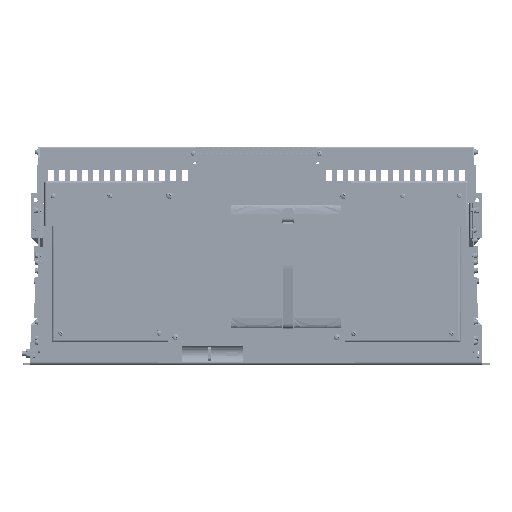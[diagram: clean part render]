
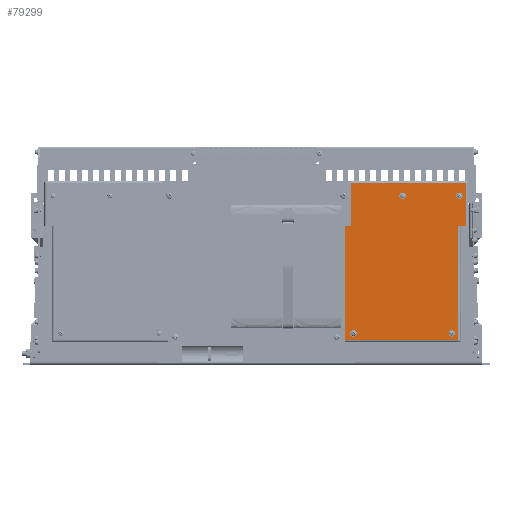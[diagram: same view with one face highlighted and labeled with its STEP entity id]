
A CAD part, top view. The second image highlights one B-rep face of the part: STEP entity #79299.
In plain terms, the highlighted planar face has unit normal (0, 0, 1) as drawn and (0, 0, -1) by its records, which use the part's own axes.
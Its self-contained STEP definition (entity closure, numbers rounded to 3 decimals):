
#216 = CARTESIAN_POINT ( 'NONE',  ( 17.5, 17.5, 0. ) ) ;
#288 = ORIENTED_EDGE ( 'NONE', *, *, #68076, .F. ) ;
#754 = CARTESIAN_POINT ( 'NONE',  ( 24., 17.5, 0. ) ) ;
#1741 = DIRECTION ( 'NONE',  ( 1., 0., 0. ) ) ;
#2226 = EDGE_CURVE ( 'NONE', #35780, #76823, #26098, .T. ) ;
#3442 = DIRECTION ( 'NONE',  ( -1., 0., 0. ) ) ;
#4064 = CIRCLE ( 'NONE', #64741, 6.5 ) ;
#4161 = PLANE ( 'NONE',  #19539 ) ;
#4310 = ORIENTED_EDGE ( 'NONE', *, *, #43387, .F. ) ;
#4594 = CARTESIAN_POINT ( 'NONE',  ( 0., 0., 0. ) ) ;
#5142 = CARTESIAN_POINT ( 'NONE',  ( -10., 230., 0. ) ) ;
#5155 = ORIENTED_EDGE ( 'NONE', *, *, #74692, .T. ) ;
#6658 = AXIS2_PLACEMENT_3D ( 'NONE', #46949, #8030, #75629 ) ;
#7227 = VERTEX_POINT ( 'NONE', #12002 ) ;
#7369 = CARTESIAN_POINT ( 'NONE',  ( 5., 0., 0. ) ) ;
#7506 = CARTESIAN_POINT ( 'NONE',  ( 115., 290., 0. ) ) ;
#8030 = DIRECTION ( 'NONE',  ( 0., 0., 1. ) ) ;
#8116 = DIRECTION ( 'NONE',  ( 1., 0., 0. ) ) ;
#8871 = CARTESIAN_POINT ( 'NONE',  ( 230., 230., 0. ) ) ;
#9045 = DIRECTION ( 'NONE',  ( 0., 0., 1. ) ) ;
#9714 = DIRECTION ( 'NONE',  ( -1., 0., 0. ) ) ;
#9854 = ORIENTED_EDGE ( 'NONE', *, *, #58515, .T. ) ;
#11219 = EDGE_LOOP ( 'NONE', ( #74769, #15827 ) ) ;
#11805 = LINE ( 'NONE', #5142, #44363 ) ;
#11972 = VERTEX_POINT ( 'NONE', #57855 ) ;
#12002 = CARTESIAN_POINT ( 'NONE',  ( 5., 5., 0. ) ) ;
#12289 = VERTEX_POINT ( 'NONE', #42690 ) ;
#12870 = CARTESIAN_POINT ( 'NONE',  ( 121.5, 290., 0. ) ) ;
#14355 = DIRECTION ( 'NONE',  ( 0., 0., 1. ) ) ;
#14645 = CARTESIAN_POINT ( 'NONE',  ( 2.5, 290., 0. ) ) ;
#15130 = VERTEX_POINT ( 'NONE', #35941 ) ;
#15344 = ORIENTED_EDGE ( 'NONE', *, *, #63063, .T. ) ;
#15563 = CARTESIAN_POINT ( 'NONE',  ( -10., 315., 0. ) ) ;
#15827 = ORIENTED_EDGE ( 'NONE', *, *, #2226, .T. ) ;
#17878 = VERTEX_POINT ( 'NONE', #82632 ) ;
#18070 = EDGE_CURVE ( 'NONE', #61001, #59089, #77266, .T. ) ;
#18120 = DIRECTION ( 'NONE',  ( 0., 0., 1. ) ) ;
#18650 = EDGE_LOOP ( 'NONE', ( #45354, #74558, #25468, #73236, #85528, #21647, #4310, #288 ) ) ;
#18944 = CARTESIAN_POINT ( 'NONE',  ( 217.5, 320., 0. ) ) ;
#19539 = AXIS2_PLACEMENT_3D ( 'NONE', #4594, #31538, #85522 ) ;
#19967 = EDGE_LOOP ( 'NONE', ( #52072, #76052 ) ) ;
#20257 = DIRECTION ( 'NONE',  ( 0., 1., 0. ) ) ;
#20468 = AXIS2_PLACEMENT_3D ( 'NONE', #7506, #60974, #1741 ) ;
#21647 = ORIENTED_EDGE ( 'NONE', *, *, #18070, .F. ) ;
#23312 = DIRECTION ( 'NONE',  ( 1., 0., 0. ) ) ;
#24352 = VERTEX_POINT ( 'NONE', #58935 ) ;
#24530 = VERTEX_POINT ( 'NONE', #15563 ) ;
#24608 = VECTOR ( 'NONE', #3442, 1000. ) ;
#25468 = ORIENTED_EDGE ( 'NONE', *, *, #41055, .F. ) ;
#26077 = DIRECTION ( 'NONE',  ( 0., 0., 1. ) ) ;
#26098 = CIRCLE ( 'NONE', #20468, 6.5 ) ;
#26704 = CIRCLE ( 'NONE', #62008, 6.5 ) ;
#28889 = CARTESIAN_POINT ( 'NONE',  ( 206., 17.5, 0. ) ) ;
#28939 = CIRCLE ( 'NONE', #72651, 6.5 ) ;
#29855 = CIRCLE ( 'NONE', #36902, 6.5 ) ;
#30367 = CARTESIAN_POINT ( 'NONE',  ( 217.5, 230., 0. ) ) ;
#31538 = DIRECTION ( 'NONE',  ( 0., 0., 1. ) ) ;
#32241 = CARTESIAN_POINT ( 'NONE',  ( 212.5, 17.5, 0. ) ) ;
#32275 = VECTOR ( 'NONE', #23312, 1000. ) ;
#34177 = DIRECTION ( 'NONE',  ( 0., 0., 1. ) ) ;
#34889 = LINE ( 'NONE', #82284, #57742 ) ;
#35780 = VERTEX_POINT ( 'NONE', #43968 ) ;
#35941 = CARTESIAN_POINT ( 'NONE',  ( 219., 17.5, 0. ) ) ;
#36902 = AXIS2_PLACEMENT_3D ( 'NONE', #69563, #9045, #69983 ) ;
#37260 = FACE_BOUND ( 'NONE', #55042, .T. ) ;
#37347 = VERTEX_POINT ( 'NONE', #754 ) ;
#38917 = DIRECTION ( 'NONE',  ( 1., 0., 0. ) ) ;
#39152 = EDGE_CURVE ( 'NONE', #76823, #35780, #4064, .T. ) ;
#41055 = EDGE_CURVE ( 'NONE', #24530, #12289, #11805, .T. ) ;
#41847 = VECTOR ( 'NONE', #56404, 1000. ) ;
#42116 = CARTESIAN_POINT ( 'NONE',  ( 212.5, 17.5, 0. ) ) ;
#42690 = CARTESIAN_POINT ( 'NONE',  ( -10., 230., 0. ) ) ;
#43387 = EDGE_CURVE ( 'NONE', #48549, #61001, #77132, .T. ) ;
#43929 = CARTESIAN_POINT ( 'NONE',  ( 9., 290., 0. ) ) ;
#43968 = CARTESIAN_POINT ( 'NONE',  ( 108.5, 290., 0. ) ) ;
#44363 = VECTOR ( 'NONE', #58217, 1000. ) ;
#44743 = CIRCLE ( 'NONE', #6658, 6.5 ) ;
#45354 = ORIENTED_EDGE ( 'NONE', *, *, #51207, .F. ) ;
#46314 = VERTEX_POINT ( 'NONE', #51681 ) ;
#46949 = CARTESIAN_POINT ( 'NONE',  ( 2.5, 290., 0. ) ) ;
#48549 = VERTEX_POINT ( 'NONE', #53402 ) ;
#49479 = AXIS2_PLACEMENT_3D ( 'NONE', #32241, #18120, #52602 ) ;
#49511 = DIRECTION ( 'NONE',  ( 1., 0., 0. ) ) ;
#51051 = CARTESIAN_POINT ( 'NONE',  ( 230., 230., 0. ) ) ;
#51207 = EDGE_CURVE ( 'NONE', #24352, #7227, #75401, .T. ) ;
#51681 = CARTESIAN_POINT ( 'NONE',  ( -4., 290., 0. ) ) ;
#52030 = VECTOR ( 'NONE', #20257, 1000. ) ;
#52072 = ORIENTED_EDGE ( 'NONE', *, *, #87033, .T. ) ;
#52392 = AXIS2_PLACEMENT_3D ( 'NONE', #216, #34177, #75304 ) ;
#52602 = DIRECTION ( 'NONE',  ( 1., 0., 0. ) ) ;
#53402 = CARTESIAN_POINT ( 'NONE',  ( 230., 5., 0. ) ) ;
#54303 = LINE ( 'NONE', #18944, #52030 ) ;
#54351 = DIRECTION ( 'NONE',  ( 1., 0., 0. ) ) ;
#55042 = EDGE_LOOP ( 'NONE', ( #57093, #9854 ) ) ;
#55193 = VERTEX_POINT ( 'NONE', #28889 ) ;
#56331 = VECTOR ( 'NONE', #38917, 1000. ) ;
#56404 = DIRECTION ( 'NONE',  ( 0., 1., 0. ) ) ;
#57093 = ORIENTED_EDGE ( 'NONE', *, *, #84000, .T. ) ;
#57657 = FACE_BOUND ( 'NONE', #19967, .T. ) ;
#57704 = EDGE_CURVE ( 'NONE', #17878, #37347, #29855, .T. ) ;
#57742 = VECTOR ( 'NONE', #9714, 1000. ) ;
#57855 = CARTESIAN_POINT ( 'NONE',  ( 217.5, 315., 0. ) ) ;
#58217 = DIRECTION ( 'NONE',  ( 0., -1., 0. ) ) ;
#58457 = EDGE_CURVE ( 'NONE', #11972, #24530, #34889, .T. ) ;
#58515 = EDGE_CURVE ( 'NONE', #46314, #80267, #26704, .T. ) ;
#58865 = CARTESIAN_POINT ( 'NONE',  ( 0., 230., 0. ) ) ;
#58935 = CARTESIAN_POINT ( 'NONE',  ( 5., 230., 0. ) ) ;
#59089 = VERTEX_POINT ( 'NONE', #85106 ) ;
#60974 = DIRECTION ( 'NONE',  ( 0., 0., 1. ) ) ;
#61001 = VERTEX_POINT ( 'NONE', #8871 ) ;
#62008 = AXIS2_PLACEMENT_3D ( 'NONE', #14645, #82697, #49511 ) ;
#63063 = EDGE_CURVE ( 'NONE', #55193, #15130, #69188, .T. ) ;
#63542 = CARTESIAN_POINT ( 'NONE',  ( 230., 5., 0. ) ) ;
#64741 = AXIS2_PLACEMENT_3D ( 'NONE', #72025, #26077, #54351 ) ;
#65584 = FACE_BOUND ( 'NONE', #86656, .T. ) ;
#67906 = DIRECTION ( 'NONE',  ( 0., -1., 0. ) ) ;
#68076 = EDGE_CURVE ( 'NONE', #7227, #48549, #77264, .T. ) ;
#69188 = CIRCLE ( 'NONE', #49479, 6.5 ) ;
#69563 = CARTESIAN_POINT ( 'NONE',  ( 17.5, 17.5, 0. ) ) ;
#69983 = DIRECTION ( 'NONE',  ( 1., 0., 0. ) ) ;
#70019 = EDGE_CURVE ( 'NONE', #59089, #11972, #54303, .T. ) ;
#70727 = EDGE_CURVE ( 'NONE', #12289, #24352, #72524, .T. ) ;
#72025 = CARTESIAN_POINT ( 'NONE',  ( 115., 290., 0. ) ) ;
#72524 = LINE ( 'NONE', #58865, #56331 ) ;
#72651 = AXIS2_PLACEMENT_3D ( 'NONE', #42116, #14355, #8116 ) ;
#73236 = ORIENTED_EDGE ( 'NONE', *, *, #58457, .F. ) ;
#74558 = ORIENTED_EDGE ( 'NONE', *, *, #70727, .F. ) ;
#74692 = EDGE_CURVE ( 'NONE', #15130, #55193, #28939, .T. ) ;
#74769 = ORIENTED_EDGE ( 'NONE', *, *, #39152, .T. ) ;
#75304 = DIRECTION ( 'NONE',  ( 1., 0., 0. ) ) ;
#75401 = LINE ( 'NONE', #7369, #84563 ) ;
#75629 = DIRECTION ( 'NONE',  ( 1., 0., 0. ) ) ;
#76052 = ORIENTED_EDGE ( 'NONE', *, *, #57704, .T. ) ;
#76823 = VERTEX_POINT ( 'NONE', #12870 ) ;
#77132 = LINE ( 'NONE', #51051, #41847 ) ;
#77264 = LINE ( 'NONE', #63542, #32275 ) ;
#77266 = LINE ( 'NONE', #30367, #24608 ) ;
#77558 = FACE_OUTER_BOUND ( 'NONE', #18650, .T. ) ;
#79299 = ADVANCED_FACE ( 'NONE', ( #85091, #57657, #65584, #37260, #77558 ), #4161, .F. ) ;
#80267 = VERTEX_POINT ( 'NONE', #43929 ) ;
#80522 = CIRCLE ( 'NONE', #52392, 6.5 ) ;
#82284 = CARTESIAN_POINT ( 'NONE',  ( -15., 315., 0. ) ) ;
#82632 = CARTESIAN_POINT ( 'NONE',  ( 11., 17.5, 0. ) ) ;
#82697 = DIRECTION ( 'NONE',  ( 0., 0., 1. ) ) ;
#84000 = EDGE_CURVE ( 'NONE', #80267, #46314, #44743, .T. ) ;
#84563 = VECTOR ( 'NONE', #67906, 1000. ) ;
#85091 = FACE_BOUND ( 'NONE', #11219, .T. ) ;
#85106 = CARTESIAN_POINT ( 'NONE',  ( 217.5, 230., 0. ) ) ;
#85522 = DIRECTION ( 'NONE',  ( -1., 0., 0. ) ) ;
#85528 = ORIENTED_EDGE ( 'NONE', *, *, #70019, .F. ) ;
#86656 = EDGE_LOOP ( 'NONE', ( #5155, #15344 ) ) ;
#87033 = EDGE_CURVE ( 'NONE', #37347, #17878, #80522, .T. ) ;
